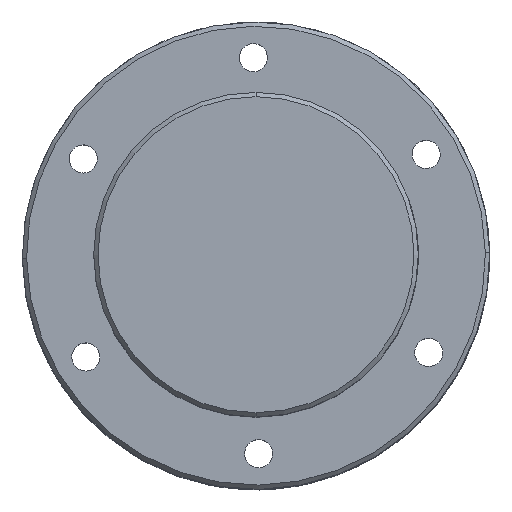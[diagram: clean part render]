
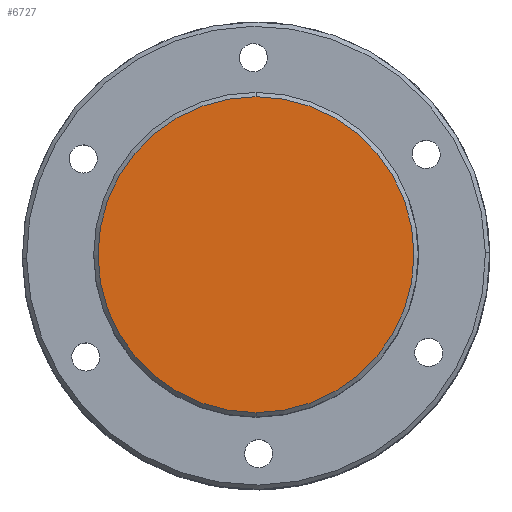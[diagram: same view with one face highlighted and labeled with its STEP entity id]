
A CAD part, top view. The second image highlights one B-rep face of the part: STEP entity #6727.
In plain terms, the highlighted planar face has unit normal (0, 0, 1) as drawn and (-1, 0, 0) by its records, which use the part's own axes.
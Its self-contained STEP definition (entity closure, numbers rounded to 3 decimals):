
#379 = DIRECTION ( 'NONE',  ( 0., 0., -1. ) ) ;
#593 = DIRECTION ( 'NONE',  ( 1., 0., 0. ) ) ;
#748 = EDGE_LOOP ( 'NONE', ( #2778, #2501 ) ) ;
#2501 = ORIENTED_EDGE ( 'NONE', *, *, #4524, .T. ) ;
#2778 = ORIENTED_EDGE ( 'NONE', *, *, #7171, .T. ) ;
#3573 = DIRECTION ( 'NONE',  ( 0., 0., -1. ) ) ;
#4497 = CIRCLE ( 'NONE', #16717, 36.5 ) ;
#4524 = EDGE_CURVE ( 'NONE', #10256, #9639, #4497, .T. ) ;
#4538 = AXIS2_PLACEMENT_3D ( 'NONE', #14493, #6284, #3573 ) ;
#5890 = CARTESIAN_POINT ( 'NONE',  ( 0., 0., 0. ) ) ;
#6284 = DIRECTION ( 'NONE',  ( -1., 0., 0. ) ) ;
#6383 = CARTESIAN_POINT ( 'NONE',  ( 0., 0., 36.5 ) ) ;
#6727 = ADVANCED_FACE ( 'NONE', ( #8124 ), #12428, .F. ) ;
#7171 = EDGE_CURVE ( 'NONE', #9639, #10256, #8639, .T. ) ;
#8124 = FACE_OUTER_BOUND ( 'NONE', #748, .T. ) ;
#8639 = CIRCLE ( 'NONE', #4538, 36.5 ) ;
#9639 = VERTEX_POINT ( 'NONE', #11269 ) ;
#9854 = CARTESIAN_POINT ( 'NONE',  ( 0., 0., 0. ) ) ;
#10256 = VERTEX_POINT ( 'NONE', #6383 ) ;
#11269 = CARTESIAN_POINT ( 'NONE',  ( 0., 0., -36.5 ) ) ;
#12428 = PLANE ( 'NONE',  #14625 ) ;
#14493 = CARTESIAN_POINT ( 'NONE',  ( 0., 0., 0. ) ) ;
#14625 = AXIS2_PLACEMENT_3D ( 'NONE', #9854, #593, #379 ) ;
#15105 = DIRECTION ( 'NONE',  ( -1., 0., 0. ) ) ;
#15457 = DIRECTION ( 'NONE',  ( 0., 0., -1. ) ) ;
#16717 = AXIS2_PLACEMENT_3D ( 'NONE', #5890, #15105, #15457 ) ;
